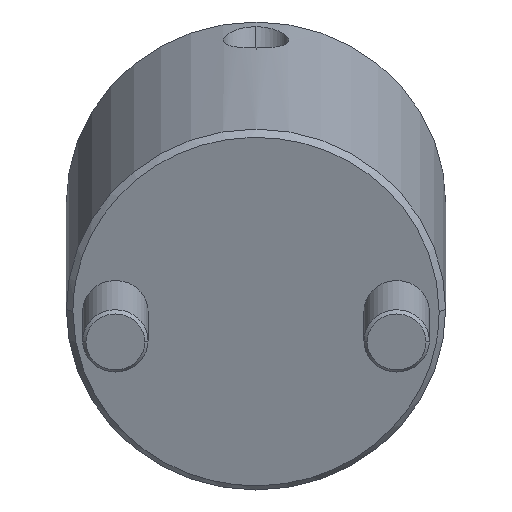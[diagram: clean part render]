
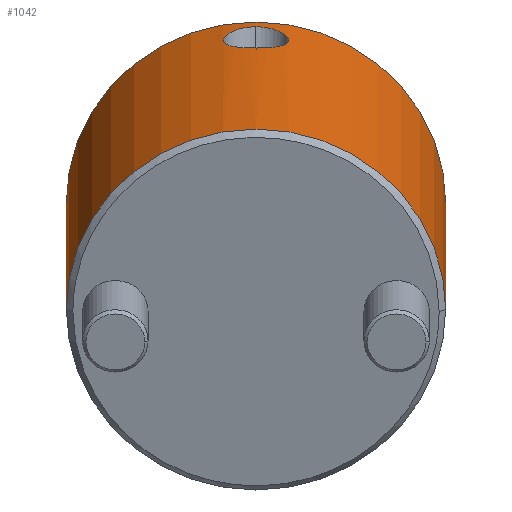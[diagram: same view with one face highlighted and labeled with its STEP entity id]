
A CAD part, front view. The second image highlights one B-rep face of the part: STEP entity #1042.
In plain terms, the highlighted cylindrical face has radius 29 mm (diameter 58 mm), a partial arc.
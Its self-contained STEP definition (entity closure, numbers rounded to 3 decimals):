
#778=CARTESIAN_POINT('Vertex',(0.,29.,1.)) ;
#781=CARTESIAN_POINT('Axis2P3D Location',(0.,0.,1.)) ;
#785=CARTESIAN_POINT('Vertex',(0.,-29.,1.)) ;
#937=CARTESIAN_POINT('Axis2P3D Location',(0.,0.,-2.75)) ;
#942=CARTESIAN_POINT('Line Origine',(0.,29.,-2.75)) ;
#946=CARTESIAN_POINT('Vertex',(0.,29.,54.)) ;
#949=CARTESIAN_POINT('Axis2P3D Location',(0.,0.,54.)) ;
#953=CARTESIAN_POINT('Vertex',(0.,-29.,54.)) ;
#956=CARTESIAN_POINT('Line Origine',(0.,-29.,-2.75)) ;
#968=CARTESIAN_POINT('Control Point',(29.,0.,51.652)) ;
#969=CARTESIAN_POINT('Control Point',(29.,0.413,51.652)) ;
#970=CARTESIAN_POINT('Control Point',(28.993,0.825,51.605)) ;
#971=CARTESIAN_POINT('Control Point',(28.978,1.237,51.509)) ;
#972=CARTESIAN_POINT('Control Point',(28.94,1.937,51.261)) ;
#973=CARTESIAN_POINT('Control Point',(28.886,2.588,50.874)) ;
#974=CARTESIAN_POINT('Control Point',(28.861,2.857,50.684)) ;
#975=CARTESIAN_POINT('Control Point',(28.797,3.455,50.181)) ;
#976=CARTESIAN_POINT('Control Point',(28.73,3.965,49.559)) ;
#977=CARTESIAN_POINT('Control Point',(28.693,4.218,49.174)) ;
#978=CARTESIAN_POINT('Control Point',(28.643,4.54,48.551)) ;
#979=CARTESIAN_POINT('Control Point',(28.607,4.762,47.896)) ;
#980=CARTESIAN_POINT('Control Point',(28.596,4.824,47.674)) ;
#981=CARTESIAN_POINT('Control Point',(28.574,4.952,47.114)) ;
#982=CARTESIAN_POINT('Control Point',(28.564,5.009,46.539)) ;
#983=CARTESIAN_POINT('Control Point',(28.563,5.016,46.194)) ;
#984=CARTESIAN_POINT('Control Point',(28.57,4.976,45.511)) ;
#985=CARTESIAN_POINT('Control Point',(28.595,4.833,44.852)) ;
#986=CARTESIAN_POINT('Control Point',(28.611,4.737,44.534)) ;
#987=CARTESIAN_POINT('Control Point',(28.657,4.455,43.814)) ;
#988=CARTESIAN_POINT('Control Point',(28.718,4.046,43.164)) ;
#989=CARTESIAN_POINT('Control Point',(28.756,3.772,42.82)) ;
#990=CARTESIAN_POINT('Control Point',(28.854,2.985,42.027)) ;
#991=CARTESIAN_POINT('Control Point',(28.941,2.003,41.48)) ;
#992=CARTESIAN_POINT('Control Point',(28.98,1.347,41.25)) ;
#993=CARTESIAN_POINT('Control Point',(29.,0.678,41.137)) ;
#994=CARTESIAN_POINT('Control Point',(29.,0.,41.137)) ;
#995=CARTESIAN_POINT('Vertex',(29.,0.,51.652)) ;
#997=CARTESIAN_POINT('Vertex',(29.,0.,41.137)) ;
#1001=CARTESIAN_POINT('Control Point',(29.,0.,41.137)) ;
#1002=CARTESIAN_POINT('Control Point',(29.,-0.219,41.137)) ;
#1003=CARTESIAN_POINT('Control Point',(28.998,-0.436,41.149)) ;
#1004=CARTESIAN_POINT('Control Point',(28.994,-0.652,41.172)) ;
#1005=CARTESIAN_POINT('Control Point',(28.979,-1.19,41.261)) ;
#1006=CARTESIAN_POINT('Control Point',(28.952,-1.712,41.421)) ;
#1007=CARTESIAN_POINT('Control Point',(28.932,-2.014,41.542)) ;
#1008=CARTESIAN_POINT('Control Point',(28.879,-2.697,41.883)) ;
#1009=CARTESIAN_POINT('Control Point',(28.814,-3.304,42.348)) ;
#1010=CARTESIAN_POINT('Control Point',(28.775,-3.622,42.654)) ;
#1011=CARTESIAN_POINT('Control Point',(28.718,-4.042,43.158)) ;
#1012=CARTESIAN_POINT('Control Point',(28.669,-4.373,43.723)) ;
#1013=CARTESIAN_POINT('Control Point',(28.653,-4.474,43.919)) ;
#1014=CARTESIAN_POINT('Control Point',(28.624,-4.655,44.321)) ;
#1015=CARTESIAN_POINT('Control Point',(28.601,-4.793,44.742)) ;
#1016=CARTESIAN_POINT('Control Point',(28.592,-4.851,44.956)) ;
#1017=CARTESIAN_POINT('Control Point',(28.572,-4.967,45.504)) ;
#1018=CARTESIAN_POINT('Control Point',(28.563,-5.013,46.071)) ;
#1019=CARTESIAN_POINT('Control Point',(28.563,-5.014,46.416)) ;
#1020=CARTESIAN_POINT('Control Point',(28.571,-4.969,46.991)) ;
#1021=CARTESIAN_POINT('Control Point',(28.591,-4.854,47.554)) ;
#1022=CARTESIAN_POINT('Control Point',(28.601,-4.796,47.778)) ;
#1023=CARTESIAN_POINT('Control Point',(28.624,-4.657,48.219)) ;
#1024=CARTESIAN_POINT('Control Point',(28.653,-4.474,48.646)) ;
#1025=CARTESIAN_POINT('Control Point',(28.669,-4.371,48.855)) ;
#1026=CARTESIAN_POINT('Control Point',(28.703,-4.146,49.259)) ;
#1027=CARTESIAN_POINT('Control Point',(28.74,-3.881,49.636)) ;
#1028=CARTESIAN_POINT('Control Point',(28.758,-3.741,49.815)) ;
#1029=CARTESIAN_POINT('Control Point',(28.815,-3.296,50.326)) ;
#1030=CARTESIAN_POINT('Control Point',(28.869,-2.784,50.754)) ;
#1031=CARTESIAN_POINT('Control Point',(28.903,-2.418,50.997)) ;
#1032=CARTESIAN_POINT('Control Point',(28.954,-1.729,51.353)) ;
#1033=CARTESIAN_POINT('Control Point',(28.986,-0.994,51.56)) ;
#1034=CARTESIAN_POINT('Control Point',(28.995,-0.662,51.622)) ;
#1035=CARTESIAN_POINT('Control Point',(29.,-0.331,51.652)) ;
#1036=CARTESIAN_POINT('Control Point',(29.,0.,51.652)) ;
#782=DIRECTION('Axis2P3D Direction',(0.,0.,1.)) ;
#938=DIRECTION('Axis2P3D Direction',(0.,-0.,1.)) ;
#939=DIRECTION('Axis2P3D XDirection',(0.,-1.,0.)) ;
#943=DIRECTION('Vector Direction',(0.,0.,1.)) ;
#950=DIRECTION('Axis2P3D Direction',(0.,-0.,1.)) ;
#957=DIRECTION('Vector Direction',(0.,0.,1.)) ;
#783=AXIS2_PLACEMENT_3D('Circle Axis2P3D',#781,#782,$) ;
#940=AXIS2_PLACEMENT_3D('Cylinder Axis2P3D',#937,#938,#939) ;
#951=AXIS2_PLACEMENT_3D('Circle Axis2P3D',#949,#950,$) ;
#962=ORIENTED_EDGE('',*,*,#948,.F.) ;
#963=ORIENTED_EDGE('',*,*,#955,.T.) ;
#964=ORIENTED_EDGE('',*,*,#960,.T.) ;
#965=ORIENTED_EDGE('',*,*,#787,.F.) ;
#1039=ORIENTED_EDGE('',*,*,#999,.T.) ;
#1040=ORIENTED_EDGE('',*,*,#1037,.T.) ;
#1041=FACE_BOUND('',#1038,.T.) ;
#944=VECTOR('Line Direction',#943,1.) ;
#958=VECTOR('Line Direction',#957,1.) ;
#1042=ADVANCED_FACE('MANIFOLD_SOLID_BREP #1144',(#966,#1041),#941,.T.) ;
#967=B_SPLINE_CURVE_WITH_KNOTS('',5,(#968,#969,#970,#971,#972,#973,#974,#975,#976,#977,#978,#979,#980,#981,#982,#983,#984,#985,#986,#987,#988,#989,#990,#991,#992,#993,#994),.UNSPECIFIED.,.F.,.U.,(6,3,3,3,3,3,3,3,6),(0.,3.077,5.417,8.587,10.186,12.541,14.89,18.015,22.852),.UNSPECIFIED.) ;
#1000=B_SPLINE_CURVE_WITH_KNOTS('',5,(#1001,#1002,#1003,#1004,#1005,#1006,#1007,#1008,#1009,#1010,#1011,#1012,#1013,#1014,#1015,#1016,#1017,#1018,#1019,#1020,#1021,#1022,#1023,#1024,#1025,#1026,#1027,#1028,#1029,#1030,#1031,#1032,#1033,#1034,#1035,#1036),.UNSPECIFIED.,.F.,.U.,(6,3,3,3,3,3,3,3,3,3,3,6),(0.,1.559,3.899,7.014,8.581,10.147,12.5,14.096,15.686,17.262,20.379,22.847),.UNSPECIFIED.) ;
#784=CIRCLE('generated circle',#783,29.) ;
#952=CIRCLE('generated circle',#951,29.) ;
#941=CYLINDRICAL_SURFACE('generated cylinder',#940,29.) ;
#787=EDGE_CURVE('',#779,#786,#784,.F.) ;
#948=EDGE_CURVE('',#947,#779,#945,.F.) ;
#955=EDGE_CURVE('',#947,#954,#952,.F.) ;
#960=EDGE_CURVE('',#954,#786,#959,.F.) ;
#999=EDGE_CURVE('',#996,#998,#967,.T.) ;
#1037=EDGE_CURVE('',#998,#996,#1000,.T.) ;
#961=EDGE_LOOP('',(#962,#963,#964,#965)) ;
#1038=EDGE_LOOP('',(#1039,#1040)) ;
#966=FACE_OUTER_BOUND('',#961,.T.) ;
#945=LINE('Line',#942,#944) ;
#959=LINE('Line',#956,#958) ;
#779=VERTEX_POINT('',#778) ;
#786=VERTEX_POINT('',#785) ;
#947=VERTEX_POINT('',#946) ;
#954=VERTEX_POINT('',#953) ;
#996=VERTEX_POINT('',#995) ;
#998=VERTEX_POINT('',#997) ;
